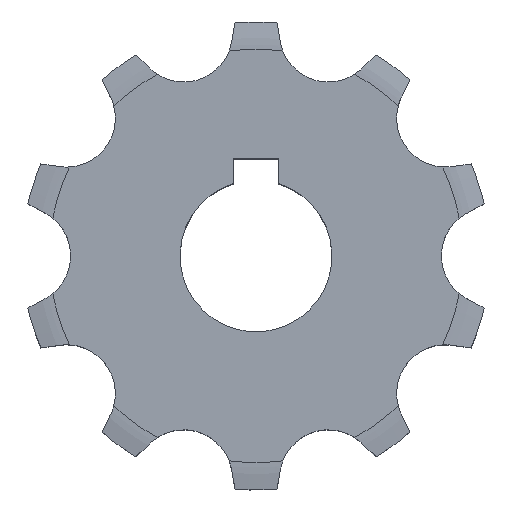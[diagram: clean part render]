
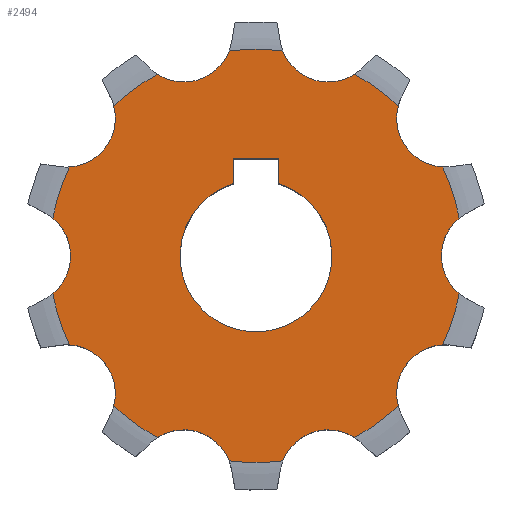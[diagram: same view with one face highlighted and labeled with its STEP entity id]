
A CAD part, top view. The second image highlights one B-rep face of the part: STEP entity #2494.
In plain terms, the highlighted planar face has unit normal (0, 0, 1).
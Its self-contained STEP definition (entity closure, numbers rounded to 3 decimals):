
#33=CARTESIAN_POINT('',(4.763,14.657,2.65));
#34=DIRECTION('',(0.,0.,1.));
#35=DIRECTION('',(-0.932,-0.363,0.));
#36=AXIS2_PLACEMENT_3D('',#33,#34,#35);
#42=CARTESIAN_POINT('',(0.,0.,2.65));
#43=DIRECTION('',(0.,0.,-1.));
#44=DIRECTION('',(0.477,0.879,0.));
#45=AXIS2_PLACEMENT_3D('',#42,#43,#44);
#50=CARTESIAN_POINT('',(12.468,9.059,2.65));
#51=DIRECTION('',(0.,0.,1.));
#52=DIRECTION('',(-0.967,0.254,0.));
#53=AXIS2_PLACEMENT_3D('',#50,#51,#52);
#58=CARTESIAN_POINT('',(0.,0.,2.65));
#59=DIRECTION('',(0.,0.,-1.));
#60=DIRECTION('',(0.903,0.43,0.));
#61=AXIS2_PLACEMENT_3D('',#58,#59,#60);
#66=CARTESIAN_POINT('',(15.412,0.,2.65));
#67=DIRECTION('',(0.,0.,1.));
#68=DIRECTION('',(-0.633,0.774,0.));
#69=AXIS2_PLACEMENT_3D('',#66,#67,#68);
#74=CARTESIAN_POINT('',(0.,0.,2.65));
#75=DIRECTION('',(0.,0.,-1.));
#76=DIRECTION('',(0.983,-0.182,0.));
#77=AXIS2_PLACEMENT_3D('',#74,#75,#76);
#82=CARTESIAN_POINT('',(12.468,-9.059,2.65));
#83=DIRECTION('',(0.,0.,1.));
#84=DIRECTION('',(-0.057,0.998,0.));
#85=AXIS2_PLACEMENT_3D('',#82,#83,#84);
#90=CARTESIAN_POINT('',(0.,0.,2.65));
#91=DIRECTION('',(0.,0.,-1.));
#92=DIRECTION('',(0.688,-0.725,0.));
#93=AXIS2_PLACEMENT_3D('',#90,#91,#92);
#98=CARTESIAN_POINT('',(4.763,-14.657,2.65));
#99=DIRECTION('',(0.,0.,1.));
#100=DIRECTION('',(0.54,0.841,0.));
#101=AXIS2_PLACEMENT_3D('',#98,#99,#100);
#106=CARTESIAN_POINT('',(-4.763,-14.657,2.65));
#107=DIRECTION('',(0.,0.,1.));
#108=DIRECTION('',(0.932,0.363,0.));
#109=AXIS2_PLACEMENT_3D('',#106,#107,#108);
#114=CARTESIAN_POINT('',(0.,0.,2.65));
#115=DIRECTION('',(0.,0.,-1.));
#116=DIRECTION('',(-0.477,-0.879,0.));
#117=AXIS2_PLACEMENT_3D('',#114,#115,#116);
#122=CARTESIAN_POINT('',(-12.468,-9.059,2.65));
#123=DIRECTION('',(0.,0.,1.));
#124=DIRECTION('',(0.967,-0.254,0.));
#125=AXIS2_PLACEMENT_3D('',#122,#123,#124);
#130=CARTESIAN_POINT('',(0.,0.,2.65));
#131=DIRECTION('',(0.,0.,-1.));
#132=DIRECTION('',(-0.903,-0.43,0.));
#133=AXIS2_PLACEMENT_3D('',#130,#131,#132);
#138=CARTESIAN_POINT('',(-15.412,0.,2.65));
#139=DIRECTION('',(0.,0.,1.));
#140=DIRECTION('',(0.633,-0.774,0.));
#141=AXIS2_PLACEMENT_3D('',#138,#139,#140);
#146=CARTESIAN_POINT('',(0.,0.,2.65));
#147=DIRECTION('',(0.,0.,-1.));
#148=DIRECTION('',(-0.983,0.182,0.));
#149=AXIS2_PLACEMENT_3D('',#146,#147,#148);
#154=CARTESIAN_POINT('',(-12.468,9.059,2.65));
#155=DIRECTION('',(0.,0.,1.));
#156=DIRECTION('',(0.057,-0.998,0.));
#157=AXIS2_PLACEMENT_3D('',#154,#155,#156);
#162=CARTESIAN_POINT('',(0.,0.,2.65));
#163=DIRECTION('',(0.,0.,-1.));
#164=DIRECTION('',(-0.688,0.725,0.));
#165=AXIS2_PLACEMENT_3D('',#162,#163,#164);
#170=CARTESIAN_POINT('',(-4.763,14.657,2.65));
#171=DIRECTION('',(0.,0.,1.));
#172=DIRECTION('',(-0.54,-0.841,0.));
#173=AXIS2_PLACEMENT_3D('',#170,#171,#172);
#178=DIRECTION('',(0.,1.,0.));
#179=VECTOR('',#178,1.63);
#180=CARTESIAN_POINT('',(1.5,4.77,2.65));
#181=LINE('',#180,#179);
#185=DIRECTION('',(-1.,0.,0.));
#186=VECTOR('',#185,3.);
#187=CARTESIAN_POINT('',(1.5,6.4,2.65));
#188=LINE('',#187,#186);
#192=DIRECTION('',(0.,-1.,0.));
#193=VECTOR('',#192,1.63);
#194=CARTESIAN_POINT('',(-1.5,6.4,2.65));
#195=LINE('',#194,#193);
#231=CARTESIAN_POINT('',(0.,0.,2.65));
#232=DIRECTION('',(0.,0.,1.));
#233=DIRECTION('',(0.13,0.991,0.));
#234=AXIS2_PLACEMENT_3D('',#231,#232,#233);
#255=CARTESIAN_POINT('',(0.,0.,2.65));
#256=DIRECTION('',(0.,0.,1.));
#257=DIRECTION('',(-0.13,-0.991,0.));
#258=AXIS2_PLACEMENT_3D('',#255,#256,#257);
#1015=CARTESIAN_POINT('',(0.,0.,2.65));
#1016=DIRECTION('',(0.,0.,-1.));
#1017=DIRECTION('',(0.3,0.954,0.));
#1018=AXIS2_PLACEMENT_3D('',#1015,#1016,#1017);
#1446=CARTESIAN_POINT('',(1.775,13.493,2.65));
#1862=CARTESIAN_POINT('',(-1.775,-13.493,2.65));
#2169=CARTESIAN_POINT('',(6.495,11.959,2.65));
#2170=CARTESIAN_POINT('',(9.367,9.873,2.65));
#2171=VERTEX_POINT('',#2169);
#2172=VERTEX_POINT('',#2170);
#2173=CARTESIAN_POINT('',(12.284,5.857,2.65));
#2174=CARTESIAN_POINT('',(13.381,2.482,2.65));
#2175=VERTEX_POINT('',#2173);
#2176=VERTEX_POINT('',#2174);
#2177=CARTESIAN_POINT('',(13.381,-2.482,2.65));
#2178=CARTESIAN_POINT('',(12.284,-5.857,2.65));
#2179=VERTEX_POINT('',#2177);
#2180=VERTEX_POINT('',#2178);
#2181=CARTESIAN_POINT('',(-6.495,-11.959,2.65));
#2182=CARTESIAN_POINT('',(-9.367,-9.873,2.65));
#2183=VERTEX_POINT('',#2181);
#2184=VERTEX_POINT('',#2182);
#2185=CARTESIAN_POINT('',(-12.284,-5.857,2.65));
#2186=CARTESIAN_POINT('',(-13.381,-2.482,2.65));
#2187=VERTEX_POINT('',#2185);
#2188=VERTEX_POINT('',#2186);
#2189=CARTESIAN_POINT('',(-13.381,2.482,2.65));
#2190=CARTESIAN_POINT('',(-12.284,5.857,2.65));
#2191=VERTEX_POINT('',#2189);
#2192=VERTEX_POINT('',#2190);
#2218=VERTEX_POINT('',#1446);
#2234=VERTEX_POINT('',#1862);
#2245=CARTESIAN_POINT('',(9.367,-9.873,2.65));
#2246=VERTEX_POINT('',#2245);
#2249=CARTESIAN_POINT('',(6.495,-11.959,2.65));
#2250=CARTESIAN_POINT('',(1.775,-13.493,2.65));
#2251=VERTEX_POINT('',#2249);
#2252=VERTEX_POINT('',#2250);
#2273=CARTESIAN_POINT('',(-9.367,9.873,2.65));
#2274=CARTESIAN_POINT('',(-6.495,11.959,2.65));
#2275=VERTEX_POINT('',#2273);
#2276=VERTEX_POINT('',#2274);
#2293=CARTESIAN_POINT('',(-1.775,13.493,2.65));
#2294=VERTEX_POINT('',#2293);
#2389=CARTESIAN_POINT('',(1.5,4.77,2.65));
#2390=CARTESIAN_POINT('',(1.5,6.4,2.65));
#2391=VERTEX_POINT('',#2389);
#2392=VERTEX_POINT('',#2390);
#2393=CARTESIAN_POINT('',(-1.5,6.4,2.65));
#2394=VERTEX_POINT('',#2393);
#2395=CARTESIAN_POINT('',(-1.5,4.77,2.65));
#2396=VERTEX_POINT('',#2395);
#2437=CARTESIAN_POINT('',(0.,0.,2.65));
#2438=DIRECTION('',(0.,0.,1.));
#2439=DIRECTION('',(1.,0.,0.));
#2440=AXIS2_PLACEMENT_3D('',#2437,#2438,#2439);
#2441=PLANE('',#2440);
#2443=ORIENTED_EDGE('',*,*,#2442,.F.);
#2445=ORIENTED_EDGE('',*,*,#2444,.T.);
#2447=ORIENTED_EDGE('',*,*,#2446,.T.);
#2449=ORIENTED_EDGE('',*,*,#2448,.T.);
#2451=ORIENTED_EDGE('',*,*,#2450,.T.);
#2453=ORIENTED_EDGE('',*,*,#2452,.T.);
#2455=ORIENTED_EDGE('',*,*,#2454,.T.);
#2457=ORIENTED_EDGE('',*,*,#2456,.T.);
#2459=ORIENTED_EDGE('',*,*,#2458,.T.);
#2461=ORIENTED_EDGE('',*,*,#2460,.T.);
#2463=ORIENTED_EDGE('',*,*,#2462,.F.);
#2465=ORIENTED_EDGE('',*,*,#2464,.T.);
#2467=ORIENTED_EDGE('',*,*,#2466,.T.);
#2469=ORIENTED_EDGE('',*,*,#2468,.T.);
#2471=ORIENTED_EDGE('',*,*,#2470,.T.);
#2473=ORIENTED_EDGE('',*,*,#2472,.T.);
#2475=ORIENTED_EDGE('',*,*,#2474,.T.);
#2477=ORIENTED_EDGE('',*,*,#2476,.T.);
#2479=ORIENTED_EDGE('',*,*,#2478,.T.);
#2481=ORIENTED_EDGE('',*,*,#2480,.T.);
#2482=EDGE_LOOP('',(#2443,#2445,#2447,#2449,#2451,#2453,#2455,#2457,#2459,#2461,
#2463,#2465,#2467,#2469,#2471,#2473,#2475,#2477,#2479,#2481));
#2483=FACE_OUTER_BOUND('',#2482,.F.);
#2485=ORIENTED_EDGE('',*,*,#2484,.T.);
#2487=ORIENTED_EDGE('',*,*,#2486,.T.);
#2489=ORIENTED_EDGE('',*,*,#2488,.T.);
#2491=ORIENTED_EDGE('',*,*,#2490,.F.);
#2492=EDGE_LOOP('',(#2485,#2487,#2489,#2491));
#2493=FACE_BOUND('',#2492,.F.);
#2494=ADVANCED_FACE('',(#2483,#2493),#2441,.T.);
#37=CIRCLE('',#36,3.207);
#46=CIRCLE('',#45,13.609);
#54=CIRCLE('',#53,3.207);
#62=CIRCLE('',#61,13.609);
#70=CIRCLE('',#69,3.207);
#78=CIRCLE('',#77,13.609);
#86=CIRCLE('',#85,3.207);
#94=CIRCLE('',#93,13.609);
#102=CIRCLE('',#101,3.207);
#110=CIRCLE('',#109,3.207);
#118=CIRCLE('',#117,13.609);
#126=CIRCLE('',#125,3.207);
#134=CIRCLE('',#133,13.609);
#142=CIRCLE('',#141,3.207);
#150=CIRCLE('',#149,13.609);
#158=CIRCLE('',#157,3.207);
#166=CIRCLE('',#165,13.609);
#174=CIRCLE('',#173,3.207);
#235=CIRCLE('',#234,13.609);
#259=CIRCLE('',#258,13.609);
#1019=CIRCLE('',#1018,5.);
#2442=EDGE_CURVE('',#2218,#2294,#235,.T.);
#2444=EDGE_CURVE('',#2218,#2171,#37,.T.);
#2446=EDGE_CURVE('',#2171,#2172,#46,.T.);
#2448=EDGE_CURVE('',#2172,#2175,#54,.T.);
#2450=EDGE_CURVE('',#2175,#2176,#62,.T.);
#2452=EDGE_CURVE('',#2176,#2179,#70,.T.);
#2454=EDGE_CURVE('',#2179,#2180,#78,.T.);
#2456=EDGE_CURVE('',#2180,#2246,#86,.T.);
#2458=EDGE_CURVE('',#2246,#2251,#94,.T.);
#2460=EDGE_CURVE('',#2251,#2252,#102,.T.);
#2462=EDGE_CURVE('',#2234,#2252,#259,.T.);
#2464=EDGE_CURVE('',#2234,#2183,#110,.T.);
#2466=EDGE_CURVE('',#2183,#2184,#118,.T.);
#2468=EDGE_CURVE('',#2184,#2187,#126,.T.);
#2470=EDGE_CURVE('',#2187,#2188,#134,.T.);
#2472=EDGE_CURVE('',#2188,#2191,#142,.T.);
#2474=EDGE_CURVE('',#2191,#2192,#150,.T.);
#2476=EDGE_CURVE('',#2192,#2275,#158,.T.);
#2478=EDGE_CURVE('',#2275,#2276,#166,.T.);
#2480=EDGE_CURVE('',#2276,#2294,#174,.T.);
#2484=EDGE_CURVE('',#2391,#2392,#181,.T.);
#2486=EDGE_CURVE('',#2392,#2394,#188,.T.);
#2488=EDGE_CURVE('',#2394,#2396,#195,.T.);
#2490=EDGE_CURVE('',#2391,#2396,#1019,.T.);
